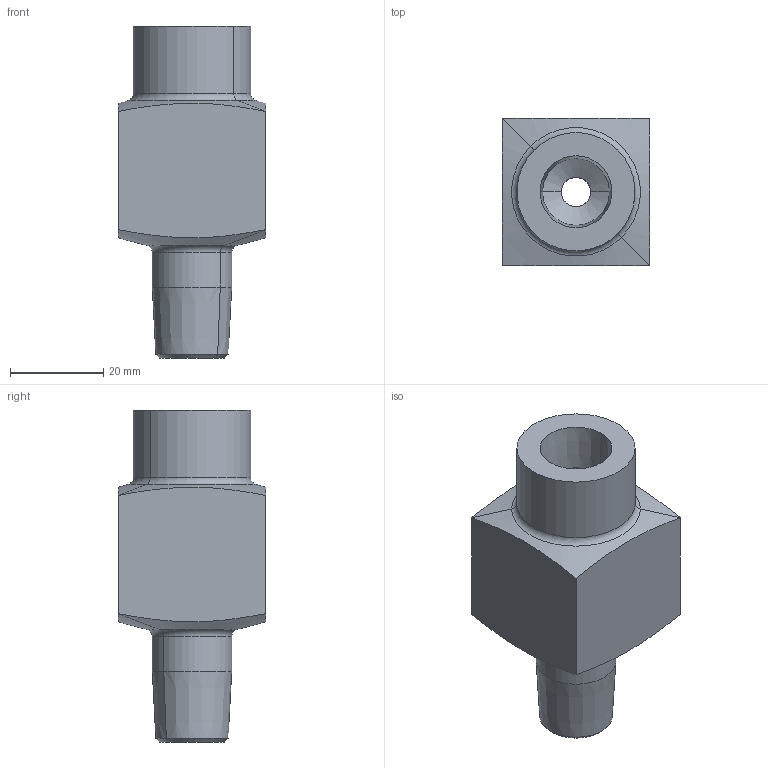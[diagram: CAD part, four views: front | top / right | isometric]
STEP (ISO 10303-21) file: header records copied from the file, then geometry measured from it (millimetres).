
FILE_DESCRIPTION((''),'2;1');
FILE_NAME('P1699','2012-12-13T',('chad.steele'),(''),'PRO/ENGINEER BY PARAMETRIC TECHNOLOGY CORPORATION, 2010040','PRO/ENGINEER BY PARAMETRIC TECHNOLOGY CORPORATION, 2010040','');
FILE_SCHEMA(('CONFIG_CONTROL_DESIGN'));
Length unit declared in the file: inch
Products named in the file (1): P1699
Bounding box: 31.75 x 31.75 x 71.37 mm (x, y, z)
Volume: 34864 mm3; surface area: 10483.9 mm2
Topology: 1 solids, 1 shells, 38 faces, 86 edges, 47 vertices
Faces by surface type: cone 16, cylinder 12, plane 6, torus 4
Entity records: 1252 total; most frequent: CARTESIAN_POINT 377, DIRECTION 180, ORIENTED_EDGE 168, EDGE_CURVE 84, AXIS2_PLACEMENT_3D 74, VERTEX_POINT 47, EDGE_LOOP 41, FACE_OUTER_BOUND 38
